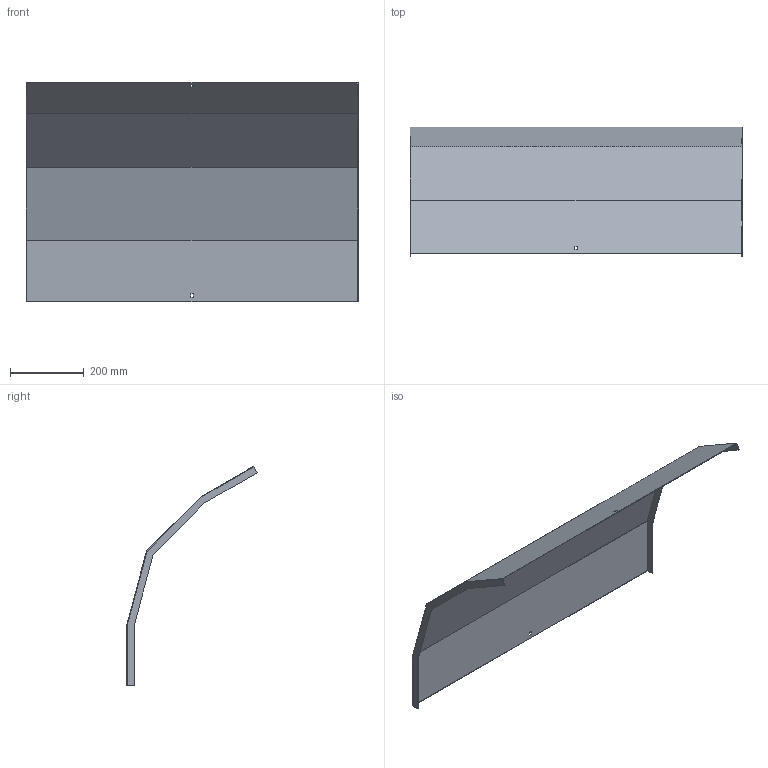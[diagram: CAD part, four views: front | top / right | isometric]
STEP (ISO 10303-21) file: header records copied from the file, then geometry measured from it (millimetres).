
FILE_DESCRIPTION (( 'STEP AP214' ), '1' );
FILE_NAME ('A2_41N3J900.step', '2025-02-21T10:40:55', ( '' ), ( '' ), 'SwSTEP 2.0', 'SolidWorks 2023', '' );
FILE_SCHEMA (( 'AUTOMOTIVE_DESIGN' ));
Length unit declared in the file: millimetre
Products named in the file (1): A2_41N3J900
Bounding box: 903 x 354.25 x 596.25 mm (x, y, z)
Volume: 1051733.9 mm3; surface area: 1407405.3 mm2
Topology: 1 solids, 1 shells, 30 faces, 84 edges, 56 vertices
Faces by surface type: plane 30
Entity records: 979 total; most frequent: CARTESIAN_POINT 171, ORIENTED_EDGE 168, DIRECTION 146, LINE 84, VECTOR 84, EDGE_CURVE 84, VERTEX_POINT 56, EDGE_LOOP 34
